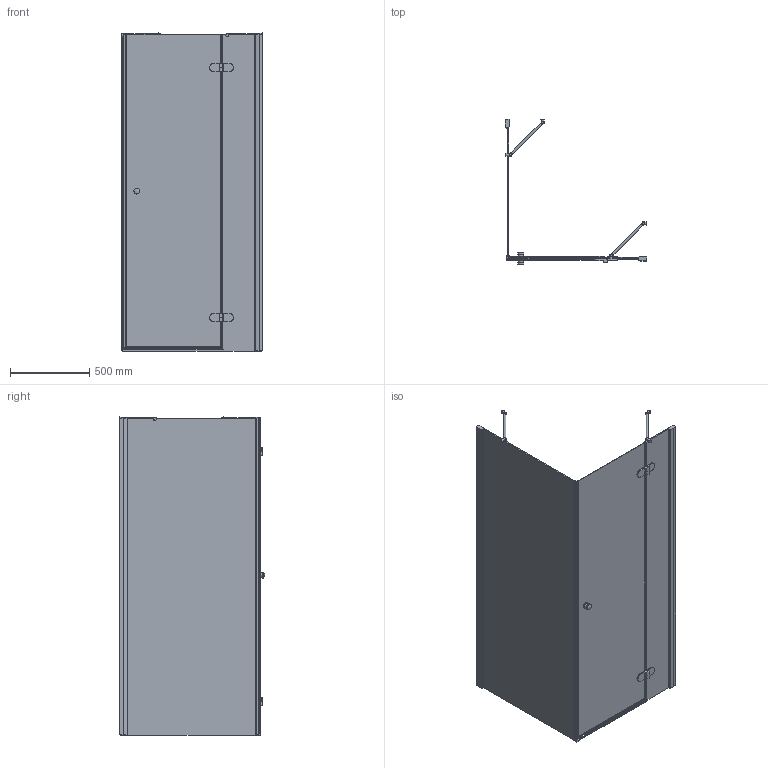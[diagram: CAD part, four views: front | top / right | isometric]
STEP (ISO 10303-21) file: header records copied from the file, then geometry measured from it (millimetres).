
FILE_DESCRIPTION(/* description */ (''),/* implementation_level */ '2;1');
FILE_NAME(/* name */ 'E:\Работа\Сергей\Душевые кабинки\! Работа\!\KOLLE SQUARE GK-863P\KOLLE SQUARE GK-863P правая модель\KOLLE SQUARE GK-863P ПРАВАЯ-3D.stp',/* time_stamp */ '2017-11-08T21:12:39+03:00',/* author */ ('PC'),/* organization */ (''),/* preprocessor_version */ 'ST-DEVELOPER v15.2',/* originating_system */ 'Autodesk Inventor 2014',/* authorisation */ '');
FILE_SCHEMA (('AUTOMOTIVE_DESIGN { 1 0 10303 214 3 1 1 }'));
Length unit declared in the file: millimetre
Products named in the file (1): KOLLE SQUARE GK-863P ПРАВАЯ-
3D
Bounding box: 893.94 x 917.14 x 2009.49 mm (x, y, z)
Volume: 29430486.5 mm3; surface area: 7457793 mm2
Topology: 7 solids, 7 shells, 604 faces, 1485 edges, 915 vertices
Faces by surface type: plane 437, cylinder 141, torus 15, bspline 6, sphere 5
Full cylindrical faces by diameter (mm): 15 x2, 20 x4, 26 x2, 38 x4
Entity records: 18583 total; most frequent: CARTESIAN_POINT 3766, ORIENTED_EDGE 2916, DIRECTION 2913, EDGE_CURVE 1458, LINE 1075, VECTOR 1075, AXIS2_PLACEMENT_3D 919, VERTEX_POINT 907
